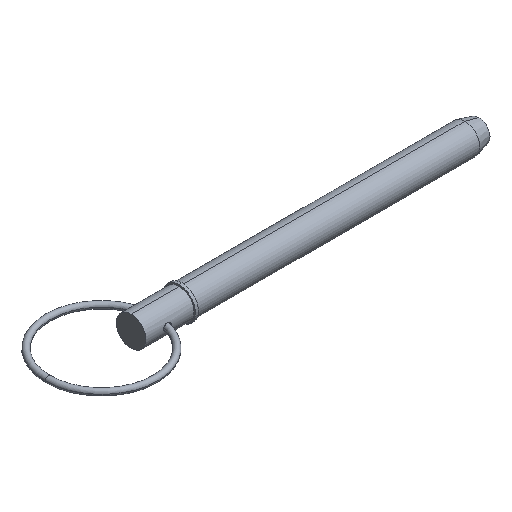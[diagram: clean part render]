
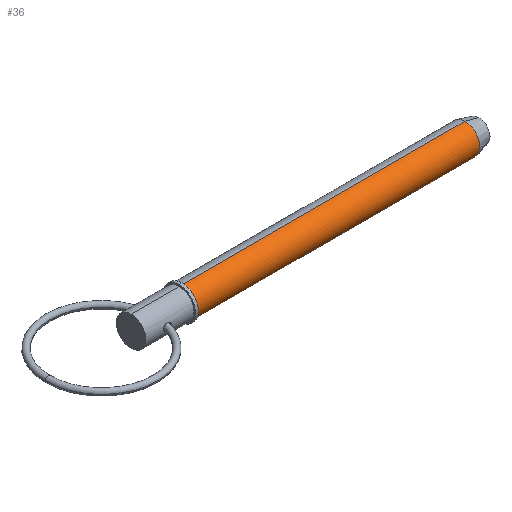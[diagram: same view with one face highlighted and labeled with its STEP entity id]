
A CAD part, isometric view. The second image highlights one B-rep face of the part: STEP entity #36.
In plain terms, the highlighted cylindrical face has radius 7.94 mm (diameter 15.88 mm), a partial arc.
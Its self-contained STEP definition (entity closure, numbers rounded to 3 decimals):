
#3 = DIRECTION ( 'NONE',  ( 0., 0., -1. ) ) ;
#36 = ADVANCED_FACE ( 'NONE', ( #346 ), #588, .T. ) ;
#52 = AXIS2_PLACEMENT_3D ( 'NONE', #122, #384, #456 ) ;
#122 = CARTESIAN_POINT ( 'NONE',  ( 178.652, 0., 0. ) ) ;
#123 = EDGE_LOOP ( 'NONE', ( #186, #936, #440, #262 ) ) ;
#163 = LINE ( 'NONE', #497, #766 ) ;
#186 = ORIENTED_EDGE ( 'NONE', *, *, #689, .F. ) ;
#210 = LINE ( 'NONE', #976, #535 ) ;
#223 = VERTEX_POINT ( 'NONE', #946 ) ;
#225 = CIRCLE ( 'NONE', #52, 7.94 ) ;
#253 = CARTESIAN_POINT ( 'NONE',  ( 178.652, 0., -7.94 ) ) ;
#254 = DIRECTION ( 'NONE',  ( 0., 0., -1. ) ) ;
#262 = ORIENTED_EDGE ( 'NONE', *, *, #796, .F. ) ;
#312 = CARTESIAN_POINT ( 'NONE',  ( 27.31, 0., -7.94 ) ) ;
#346 = FACE_OUTER_BOUND ( 'NONE', #123, .T. ) ;
#352 = AXIS2_PLACEMENT_3D ( 'NONE', #425, #575, #254 ) ;
#384 = DIRECTION ( 'NONE',  ( 1., 0., 0. ) ) ;
#422 = CIRCLE ( 'NONE', #1020, 7.94 ) ;
#425 = CARTESIAN_POINT ( 'NONE',  ( 0., 0., 0. ) ) ;
#427 = DIRECTION ( 'NONE',  ( 1., 0., 0. ) ) ;
#440 = ORIENTED_EDGE ( 'NONE', *, *, #448, .T. ) ;
#448 = EDGE_CURVE ( 'NONE', #699, #948, #163, .T. ) ;
#456 = DIRECTION ( 'NONE',  ( 0., 0., -1. ) ) ;
#497 = CARTESIAN_POINT ( 'NONE',  ( 0., 0., -7.94 ) ) ;
#535 = VECTOR ( 'NONE', #624, 1000. ) ;
#575 = DIRECTION ( 'NONE',  ( 1., 0., 0. ) ) ;
#588 = CYLINDRICAL_SURFACE ( 'NONE', #352, 7.94 ) ;
#624 = DIRECTION ( 'NONE',  ( 1., 0., 0. ) ) ;
#665 = DIRECTION ( 'NONE',  ( 1., 0., 0. ) ) ;
#689 = EDGE_CURVE ( 'NONE', #1024, #223, #210, .T. ) ;
#699 = VERTEX_POINT ( 'NONE', #312 ) ;
#766 = VECTOR ( 'NONE', #427, 1000. ) ;
#796 = EDGE_CURVE ( 'NONE', #223, #948, #225, .T. ) ;
#842 = EDGE_CURVE ( 'NONE', #1024, #699, #422, .T. ) ;
#936 = ORIENTED_EDGE ( 'NONE', *, *, #842, .T. ) ;
#939 = CARTESIAN_POINT ( 'NONE',  ( 27.31, 0., 7.94 ) ) ;
#946 = CARTESIAN_POINT ( 'NONE',  ( 178.652, 0., 7.94 ) ) ;
#948 = VERTEX_POINT ( 'NONE', #253 ) ;
#976 = CARTESIAN_POINT ( 'NONE',  ( 0., 0., 7.94 ) ) ;
#1000 = CARTESIAN_POINT ( 'NONE',  ( 27.31, 0., 0. ) ) ;
#1020 = AXIS2_PLACEMENT_3D ( 'NONE', #1000, #665, #3 ) ;
#1024 = VERTEX_POINT ( 'NONE', #939 ) ;
